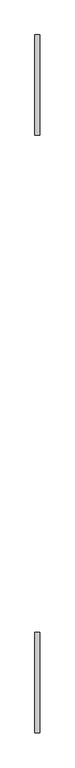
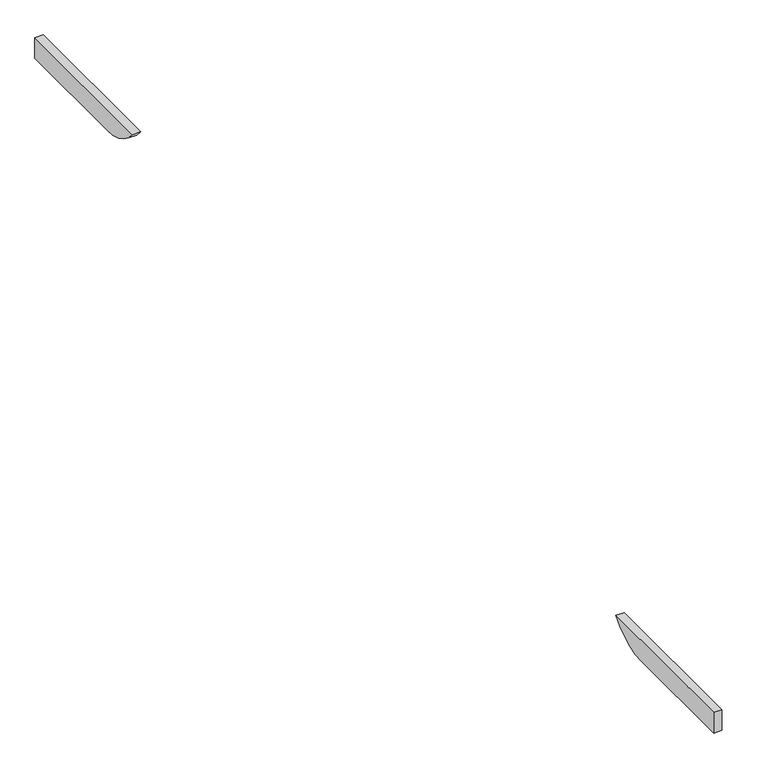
"""IFC4 building model written with IfcOpenShell, lengths in millimetres: proxy geometry, Modelos genéricos 27 : Modelos genéricos 2."""

import ifcopenshell
import ifcopenshell.guid

model = None  # the IFC model being written
_history = None  # IfcOwnerHistory: only IFC2X3 demands one
_inside = {}  # id of a spatial element -> (the spatial element, [elements in it])
_under = {}  # id of a project, library or spatial element -> (it, [spatial elements below it])
_declared = {}  # id of a project -> (the project, [libraries it declares])
_typed = {}  # id of a type object -> (the type object, [elements of that type])
_made_of = {}  # id of a material, layer set ... -> (it, [elements and type objects made of it])


def new_model(schema):
    """Start an empty IFC model of exactly this schema.

    Asked for "IFC4X3", IfcOpenShell would pick the latest addendum, in which some entities
    have other attributes; the version numbers below select the first issue.
    IFC2X3 requires an IfcOwnerHistory on every rooted entity: one is made here for all.
    """
    global model, _history
    if schema == "IFC4X3":
        model = ifcopenshell.file(schema_version=(4, 3, 0, 0))
    else:
        model = ifcopenshell.file(schema=schema)
    _inside.clear()
    _under.clear()
    _declared.clear()
    _typed.clear()
    _made_of.clear()
    _history = None
    if model.schema == "IFC2X3":
        org = make("IfcOrganization", Name="unknown")
        user = make(
            "IfcPersonAndOrganization",
            ThePerson=make("IfcPerson", FamilyName="unknown"),
            TheOrganization=org,
        )
        app = make(
            "IfcApplication",
            ApplicationDeveloper=org,
            Version="unknown",
            ApplicationFullName="unknown",
            ApplicationIdentifier="unknown",
        )
        _history = make(
            "IfcOwnerHistory",
            OwningUser=user,
            OwningApplication=app,
            ChangeAction="ADDED",
            CreationDate=0,
        )
    return model


def make(cls, **values):
    """One entity of the class cls with the attributes given. An attribute that is None is left unset."""
    return model.create_entity(
        cls, **{name: value for name, value in values.items() if value is not None}
    )


def rooted(cls, **values):
    """An entity with a GlobalId (a new one), such as an element, a storey or a relation."""
    return make(cls, GlobalId=ifcopenshell.guid.new(), OwnerHistory=_history, **values)


def si_unit(unit_type, name, prefix=None):
    """IfcSIUnit, for example si_unit("LENGTHUNIT", "METRE", prefix="MILLI")."""
    return make("IfcSIUnit", UnitType=unit_type, Prefix=prefix, Name=name)


def assignment(units):
    """IfcUnitAssignment: the units of a project."""
    return None if units is None else make("IfcUnitAssignment", Units=units)


def point(xyz):
    """IfcCartesianPoint."""
    return None if xyz is None else make("IfcCartesianPoint", Coordinates=xyz)


def direction(xyz):
    """IfcDirection."""
    return None if xyz is None else make("IfcDirection", DirectionRatios=xyz)


def frame(location, z_axis=None, x_axis=None):
    """IfcAxis2Placement3D, a coordinate frame: its origin and axes. An axis left out is left unset."""
    return make(
        "IfcAxis2Placement3D",
        Location=point(location),
        Axis=direction(z_axis),
        RefDirection=direction(x_axis),
    )


def frame_2d(location, x_axis=None):
    """IfcAxis2Placement2D, a coordinate frame in the plane: its origin and x axis."""
    return make(
        "IfcAxis2Placement2D", Location=point(location), RefDirection=direction(x_axis)
    )


def origin():
    """The frame at (0, 0, 0) with its axes left unset."""
    return frame((0.0, 0.0, 0.0))


def place(relative_to, where):
    """IfcLocalPlacement: puts the frame where relative to a parent placement (None: the world)."""
    return make(
        "IfcLocalPlacement", PlacementRelTo=relative_to, RelativePlacement=where
    )


def context(
    kind, dimensions, precision=None, world=None, true_north=None, identifier=None
):
    """IfcGeometricRepresentationContext, for example the 3D "Model" context."""
    return make(
        "IfcGeometricRepresentationContext",
        ContextIdentifier=identifier,
        ContextType=kind,
        CoordinateSpaceDimension=dimensions,
        Precision=precision,
        WorldCoordinateSystem=world,
        TrueNorth=true_north,
    )


def project(units=None, contexts=None):
    """IfcProject with its units and contexts."""
    return rooted(
        "IfcProject",
        Name="project",
        RepresentationContexts=contexts,
        UnitsInContext=assignment(units),
    )


def spatial(cls, under=None, at=None, **own):
    """A site, building, storey or space (cls), placed at a placement, below another one or the project."""
    s = rooted(cls, ObjectPlacement=at, **own)
    if under is not None:
        _under.setdefault(under.id(), (under, []))[1].append(s)
    return s


def polyline(points):
    """IfcPolyline through the points."""
    return make("IfcPolyline", Points=[point(p) for p in points])


def circle_curve(where, radius):
    """IfcCircle in the frame where."""
    return make("IfcCircle", Position=where, Radius=radius)


def trimmed(basis, trim1, trim2, sense, master):
    """IfcTrimmedCurve: the piece of a basis curve between two trims."""
    return make(
        "IfcTrimmedCurve",
        BasisCurve=basis,
        Trim1=trim1,
        Trim2=trim2,
        SenseAgreement=sense,
        MasterRepresentation=master,
    )


def segment(curve, same_sense, transition):
    """IfcCompositeCurveSegment."""
    return make(
        "IfcCompositeCurveSegment",
        Transition=transition,
        SameSense=same_sense,
        ParentCurve=curve,
    )


def composite_curve(segments, self_intersect=None):
    """IfcCompositeCurve: segments joined end to end."""
    return make("IfcCompositeCurve", Segments=segments, SelfIntersect=self_intersect)


def outline(outer, holes=None, kind="AREA"):
    """IfcArbitraryClosedProfileDef: a profile drawn as a closed curve; with holes, ...WithVoids."""
    if holes is None:
        return make("IfcArbitraryClosedProfileDef", ProfileType=kind, OuterCurve=outer)
    return make(
        "IfcArbitraryProfileDefWithVoids",
        ProfileType=kind,
        OuterCurve=outer,
        InnerCurves=holes,
    )


def extrude(swept, where, along, depth):
    """IfcExtrudedAreaSolid: the profile swept, set in the frame where, extruded along a direction by depth."""
    return make(
        "IfcExtrudedAreaSolid",
        SweptArea=swept,
        Position=where,
        ExtrudedDirection=direction(along),
        Depth=depth,
    )


def shape(context_of_items, identifier, shape_type, items):
    """IfcShapeRepresentation: the items that make up one representation, for example the "Body"."""
    return make(
        "IfcShapeRepresentation",
        ContextOfItems=context_of_items,
        RepresentationIdentifier=identifier,
        RepresentationType=shape_type,
        Items=items,
    )


def source(mapping_origin, context_of_items, identifier, shape_type, items):
    """IfcRepresentationMap: a shape defined once, which mapped items show again and again."""
    return make(
        "IfcRepresentationMap",
        MappingOrigin=mapping_origin,
        MappedRepresentation=shape(context_of_items, identifier, shape_type, items),
    )


def transform(
    local_origin,
    x_axis=None,
    y_axis=None,
    z_axis=None,
    scale=None,
    scale2=None,
    scale3=None,
    uniform=True,
):
    """IfcCartesianTransformationOperator3D, or its non-uniform kind. x_axis, y_axis, z_axis: its Axis1, 2, 3."""
    if uniform:
        return make(
            "IfcCartesianTransformationOperator3D",
            Axis1=direction(x_axis),
            Axis2=direction(y_axis),
            LocalOrigin=point(local_origin),
            Scale=scale,
            Axis3=direction(z_axis),
        )
    return make(
        "IfcCartesianTransformationOperator3DnonUniform",
        Axis1=direction(x_axis),
        Axis2=direction(y_axis),
        LocalOrigin=point(local_origin),
        Scale=scale,
        Axis3=direction(z_axis),
        Scale2=scale2,
        Scale3=scale3,
    )


def mapped(mapping_source, mapping_target):
    """IfcMappedItem: shows the shape of a source again, moved by a transform."""
    return make(
        "IfcMappedItem", MappingSource=mapping_source, MappingTarget=mapping_target
    )


def made_of(thing, what):
    """Note that an element or type object is made of a material, layer set ...; save() writes the relation."""
    if what is not None:
        _made_of.setdefault(what.id(), (what, []))[1].append(thing)
    return thing


def element(
    cls,
    number,
    at=None,
    inside=None,
    cuts=None,
    type_object=None,
    material=None,
    context=None,
    identifier="Body",
    shape_type=None,
    held_by="IfcProductDefinitionShape",
    body=None,
    shapes=None,
    **own,
):
    """One element of the class cls, such as IfcWall. Its Tag is "e" and its number.

    at: its placement. inside: the storey or other place that contains it. cuts: it is an
    opening in that element (IfcRelVoidsElement). A single representation is given by context,
    identifier, shape_type and body (its items); several are given by shapes. held_by: the class
    of the entity that holds the representations. save() writes the other relations.
    """
    e = rooted(cls, Tag="e%d" % number, ObjectPlacement=at, **own)
    if body is not None:
        shapes = [shape(context, identifier, shape_type, body)]
    if shapes is not None:
        e.Representation = make(held_by, Representations=shapes)
    if inside is not None:
        _inside.setdefault(inside.id(), (inside, []))[1].append(e)
    if cuts is not None:
        rooted(
            "IfcRelVoidsElement", RelatingBuildingElement=cuts, RelatedOpeningElement=e
        )
    if type_object is not None:
        _typed.setdefault(type_object.id(), (type_object, []))[1].append(e)
    return made_of(e, material)


def aggregate(whole, parts):
    """IfcRelAggregates: a whole, such as a stair, and the parts it consists of."""
    return rooted("IfcRelAggregates", RelatingObject=whole, RelatedObjects=parts)


def save(model, path):
    """Write the relations noted so far, then the file.

    IfcRelAggregates (storeys below a building ...), IfcRelContainedInSpatialStructure (elements
    in a storey), IfcRelDefinesByType, IfcRelAssociatesMaterial and IfcRelDeclares: one each for
    every whole, place, type object, material and project.
    """
    for whole, parts in _under.values():
        aggregate(whole, parts)
    for where, things in _inside.values():
        rooted(
            "IfcRelContainedInSpatialStructure",
            RelatedElements=things,
            RelatingStructure=where,
        )
    for kind, things in _typed.values():
        rooted("IfcRelDefinesByType", RelatedObjects=things, RelatingType=kind)
    for what, things in _made_of.values():
        rooted("IfcRelAssociatesMaterial", RelatedObjects=things, RelatingMaterial=what)
    for by, libraries in _declared.values():
        rooted("IfcRelDeclares", RelatingContext=by, RelatedDefinitions=libraries)
    model.write(path)


def generic_models_fbdac11b(model_context):
    return source(origin(), model_context, "Body", "SweptSolid", [
        extrude(outline(composite_curve([segment(polyline([(-2331.3761835, 2840.0), (-2331.3761835, 3000.0), (-1101.3761835, 3000.0)]), True, "CONTINUOUS"), segment(trimmed(circle_curve(frame_2d((-1421.3761835, 3240.0)), 400.0), [point((-1101.3761835, 3000.0))], [point((-1421.3761835, 2840.0))], False, "CARTESIAN"), True, "CONTINUOUS"), segment(polyline([(-1421.3761835, 2840.0), (-2331.3761835, 2840.0)]), True, "CONTINUOUS")], self_intersect=False)), frame((47973.4472467, 0.0, 0.0), z_axis=(1.0, 0.0, 0.0), x_axis=(0.0, 1.0, 0.0)), (0.0, 0.0, 1.0), 60.0),
        extrude(outline(composite_curve([segment(polyline([(6228.6238165, 2840.0), (5318.6238165, 2840.0)]), True, "CONTINUOUS"), segment(trimmed(circle_curve(frame_2d((5318.6238165, 3240.0)), 400.0), [point((5318.6238165, 2840.0))], [point((4998.6238165, 3000.0))], False, "CARTESIAN"), True, "CONTINUOUS"), segment(polyline([(4998.6238165, 3000.0), (6228.6238165, 3000.0), (6228.6238165, 2840.0)]), True, "CONTINUOUS")], self_intersect=False)), frame((47973.4472467, 0.0, 0.0), z_axis=(1.0, 0.0, 0.0), x_axis=(0.0, 1.0, 0.0)), (0.0, 0.0, 1.0), 60.0),
    ])


if __name__ == "__main__":
    model = new_model("IFC4")
    model_context = context("Model", 3, world=origin())
    ifc_project = project(units=[si_unit("LENGTHUNIT", "METRE", prefix="MILLI")], contexts=[model_context])
    site = spatial("IfcSite", under=ifc_project)
    building = spatial("IfcBuilding", under=site)
    placement = place(None, origin())
    generic_models_shape = generic_models_fbdac11b(model_context)
    element("IfcBuildingElementProxy", 1, Name="Modelos genéricos 27 : Modelos genéricos 2", ObjectType="Modelos genéricos 27 : Modelos genéricos 2", at=placement, inside=building, context=model_context, shape_type="MappedRepresentation", body=[
        mapped(generic_models_shape, transform((0.0, 0.0, 0.0), x_axis=(1.0, 0.0, 0.0), y_axis=(0.0, 1.0, 0.0), z_axis=(0.0, 0.0, 1.0))),
    ])
    save(model, "model.ifc")
